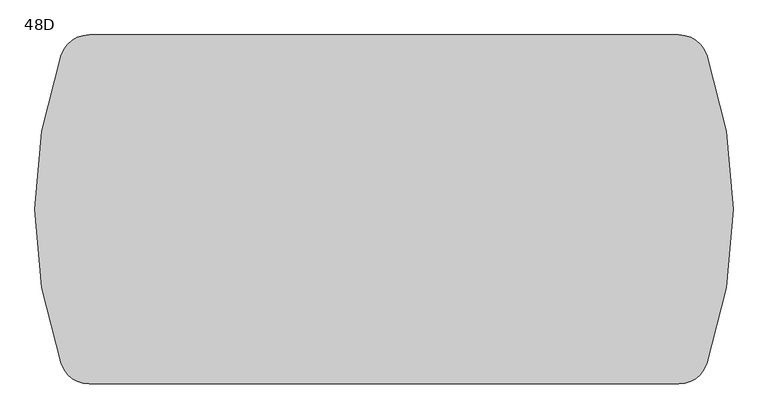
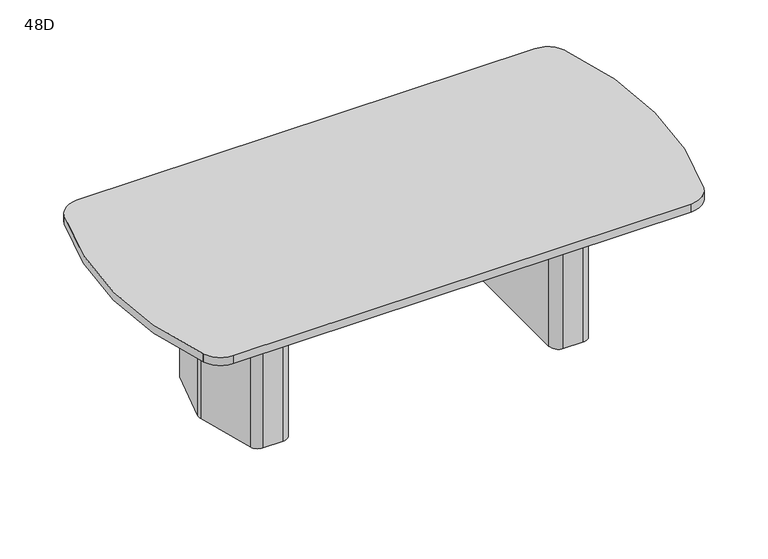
"""IFC4 building model written with IfcOpenShell, lengths in millimetres: furniture geometry, Coalesse_AM_Table_Conference_ETable2_SoftRadiused_96in_TwoBase : 48D."""

from ifc_helpers import new_model, si_unit, point, frame, frame_2d, origin, place, context, project, spatial, polyline, circle_curve, trimmed, segment, composite_curve, outline, extrude, source, transform, mapped, element, save
from ifc_brep_helpers import plane_surface, cylinder_surface, revolved_surface, advanced_brep


def furniture_48d_3bdc1eed(model_context):
    return source(origin(), model_context, "Body", "SolidModel", [
        advanced_brep(
        [(760.624548, 274.2093613, 698.5), (720.7579246, 304.8, 698.5), (631.825, 304.8, 698.5), (590.55, 263.525, 698.5), (590.55, -263.525, 698.5), (631.825, -304.8, 698.5), (720.7579246, -304.8, 698.5), (760.624548, -274.2093613, 698.5), (831.2503901, -10.6333708, 698.5), (831.2503901, 10.6333708, 698.5), (628.65, -206.375, 698.5), (628.65, 206.375, 698.5), (654.05, 231.775, 698.5), (713.0608422, 231.775, 698.5), (737.595338, 212.9490792, 698.5), (776.2875, 68.54974, 698.5), (776.2875, -68.54974, 698.5), (737.595338, -212.9490792, 698.5), (713.0608422, -231.775, 698.5), (654.05, -231.775, 698.5), (760.624548, 274.2093613, 3.175), (831.2503901, 10.6333708, 3.175), (831.2503901, -10.6333708, 3.175), (760.624548, -274.2093613, 3.175), (720.7579246, -304.8, 3.175), (631.825, -304.8, 3.175), (590.55, -263.525, 3.175), (590.55, 263.525, 3.175), (631.825, 304.8, 3.175), (720.7579246, 304.8, 3.175), (749.8625859, 216.2361187, 3.175), (713.0608422, 244.475, 3.175), (654.05, 244.475, 3.175), (615.95, 206.375, 3.175), (615.95, -206.375, 3.175), (654.05, -244.475, 3.175), (713.0608422, -244.475, 3.175), (749.8625859, -216.2361187, 3.175), (788.9875, -70.2217466, 3.175), (788.9875, 70.2217466, 3.175), (654.05, -231.775, 3.175), (628.65, -206.375, 3.175), (713.0608422, -231.775, 3.175), (737.595338, -212.9490792, 3.175), (776.2875, -68.54974, 3.175), (776.2875, 68.54974, 3.175), (737.595338, 212.9490792, 3.175), (713.0608422, 231.775, 3.175), (654.05, 231.775, 3.175), (628.65, 206.375, 3.175), (749.8625859, 216.2361187, 0.0), (788.9875, 70.2217466, 0.0), (788.9875, -70.2217466, 0.0), (749.8625859, -216.2361187, 0.0), (713.0608422, -244.475, 0.0), (654.05, -244.475, 0.0), (615.95, -206.375, 0.0), (615.95, 206.375, 0.0), (654.05, 244.475, 0.0), (713.0608422, 244.475, 0.0)],
        [
            (0, 1, circle_curve(frame((720.7579246, 263.5270004, 698.5), z_axis=(0.0, 0.0, 1.0), x_axis=(-1.0, 0.0, 0.0)), 41.2729996)),
            (1, 2),
            (2, 3, circle_curve(frame((631.825, 263.525, 698.5), z_axis=(0.0, 0.0, 1.0), x_axis=(-1.0, 0.0, 0.0)), 41.275)),
            (3, 4),
            (4, 5, circle_curve(frame((631.825, -263.525, 698.5), z_axis=(0.0, 0.0, 1.0), x_axis=(-1.0, 0.0, 0.0)), 41.275)),
            (5, 6),
            (6, 7, circle_curve(frame((720.7579246, -263.5270004, 698.5), z_axis=(0.0, 0.0, 1.0), x_axis=(-1.0, 0.0, 0.0)), 41.2729996)),
            (7, 8),
            (8, 9, circle_curve(frame((791.5665979, 0.0, 698.5), z_axis=(0.0, 0.0, 1.0), x_axis=(-1.0, 0.0, 0.0)), 41.0837187)),
            (9, 0),
            (10, 11),
            (11, 12, circle_curve(frame((654.05, 206.375, 698.5), z_axis=(0.0, 0.0, -1.0), x_axis=(-1.0, 0.0, 0.0)), 25.4)),
            (12, 13),
            (13, 14, circle_curve(frame((713.0608422, 206.375, 698.5), z_axis=(0.0, 0.0, -1.0), x_axis=(-1.0, 0.0, 0.0)), 25.4)),
            (14, 15),
            (15, 16),
            (16, 17),
            (17, 18, circle_curve(frame((713.0608422, -206.375, 698.5), z_axis=(0.0, 0.0, -1.0), x_axis=(-1.0, 0.0, 0.0)), 25.4)),
            (18, 19),
            (19, 10, circle_curve(frame((654.05, -206.375, 698.5), z_axis=(0.0, 0.0, -1.0), x_axis=(-1.0, 0.0, 0.0)), 25.4)),
            (20, 21),
            (21, 22, circle_curve(frame((791.5665979, 0.0, 3.175), z_axis=(0.0, 0.0, -1.0), x_axis=(-1.0, 0.0, 0.0)), 41.0837187)),
            (22, 23),
            (23, 24, circle_curve(frame((720.7579246, -263.5270004, 3.175), z_axis=(0.0, 0.0, -1.0), x_axis=(-1.0, 0.0, 0.0)), 41.2729996)),
            (24, 25),
            (25, 26, circle_curve(frame((631.825, -263.525, 3.175), z_axis=(0.0, 0.0, -1.0), x_axis=(-1.0, 0.0, 0.0)), 41.275)),
            (26, 27),
            (27, 28, circle_curve(frame((631.825, 263.525, 3.175), z_axis=(0.0, 0.0, -1.0), x_axis=(-1.0, 0.0, 0.0)), 41.275)),
            (28, 29),
            (29, 20, circle_curve(frame((720.7579246, 263.5270004, 3.175), z_axis=(0.0, 0.0, -1.0), x_axis=(-1.0, 0.0, 0.0)), 41.2729996)),
            (30, 31, circle_curve(frame((713.0608422, 206.375, 3.175), z_axis=(0.0, 0.0, 1.0), x_axis=(-1.0, 0.0, 0.0)), 38.1)),
            (31, 32),
            (32, 33, circle_curve(frame((654.05, 206.375, 3.175), z_axis=(0.0, 0.0, 1.0), x_axis=(-1.0, 0.0, 0.0)), 38.1)),
            (33, 34),
            (34, 35, circle_curve(frame((654.05, -206.375, 3.175), z_axis=(0.0, 0.0, 1.0), x_axis=(-1.0, 0.0, 0.0)), 38.1)),
            (35, 36),
            (36, 37, circle_curve(frame((713.0608422, -206.375, 3.175), z_axis=(0.0, 0.0, 1.0), x_axis=(-1.0, 0.0, 0.0)), 38.1)),
            (37, 38),
            (38, 39),
            (39, 30),
            (9, 21),
            (20, 0),
            (8, 22),
            (7, 23),
            (6, 24),
            (5, 25),
            (4, 26),
            (3, 27),
            (2, 28),
            (1, 29),
            (19, 40),
            (40, 41, circle_curve(frame((654.05, -206.375, 3.175), z_axis=(0.0, 0.0, -1.0), x_axis=(-1.0, 0.0, 0.0)), 25.4)),
            (41, 10),
            (18, 42),
            (42, 40),
            (17, 43),
            (43, 42, circle_curve(frame((713.0608422, -206.375, 3.175), z_axis=(0.0, 0.0, -1.0), x_axis=(-1.0, 0.0, 0.0)), 25.4)),
            (16, 44),
            (44, 43),
            (15, 45),
            (45, 44),
            (14, 46),
            (46, 45),
            (13, 47),
            (47, 46, circle_curve(frame((713.0608422, 206.375, 3.175), z_axis=(0.0, 0.0, -1.0), x_axis=(-1.0, 0.0, 0.0)), 25.4)),
            (12, 48),
            (48, 47),
            (11, 49),
            (49, 48, circle_curve(frame((654.05, 206.375, 3.175), z_axis=(0.0, 0.0, -1.0), x_axis=(-1.0, 0.0, 0.0)), 25.4)),
            (41, 49),
            (50, 51),
            (51, 52),
            (52, 53),
            (53, 54, circle_curve(frame((713.0608422, -206.375, 0.0), z_axis=(0.0, 0.0, -1.0), x_axis=(-1.0, 0.0, 0.0)), 38.1)),
            (54, 55),
            (55, 56, circle_curve(frame((654.05, -206.375, 0.0), z_axis=(0.0, 0.0, -1.0), x_axis=(-1.0, 0.0, 0.0)), 38.1)),
            (56, 57),
            (57, 58, circle_curve(frame((654.05, 206.375, 0.0), z_axis=(0.0, 0.0, -1.0), x_axis=(-1.0, 0.0, 0.0)), 38.1)),
            (58, 59),
            (59, 50, circle_curve(frame((713.0608422, 206.375, 0.0), z_axis=(0.0, 0.0, -1.0), x_axis=(-1.0, 0.0, 0.0)), 38.1)),
            (50, 30),
            (39, 51),
            (38, 52),
            (37, 53),
            (36, 54),
            (35, 55),
            (34, 56),
            (33, 57),
            (32, 58),
            (31, 59),
        ],
        [
            plane_surface(frame((831.2374275, 10.6817473, 698.5), z_axis=(0.0, 0.0, 1.0000000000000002), x_axis=(0.25882201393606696, -0.9659250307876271, 0.0))),
            plane_surface(frame((831.2374275, 10.6817473, 3.175), z_axis=(0.0, 0.0, -1.0000000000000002), x_axis=(-0.25882201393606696, 0.9659250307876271, 0.0))),
            plane_surface(frame((760.624548, 274.2093613, 698.5), z_axis=(0.9659250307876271, 0.25882201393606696, 0.0), x_axis=(0.0, 0.0, -1.0))),
            cylinder_surface(frame((791.5665979, 0.0, 3.175), z_axis=(0.0, 0.0, 1.0), x_axis=(-1.0, 0.0, 0.0)), 41.0837187),
            plane_surface(frame((831.2503901, -10.6333708, 698.5), z_axis=(0.9659250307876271, -0.2588220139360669, 0.0), x_axis=(0.0, 0.0, -1.0))),
            cylinder_surface(frame((720.7579246, -263.5270004, 3.175), z_axis=(0.0, 0.0, 1.0), x_axis=(-1.0, 0.0, 0.0)), 41.2729996),
            plane_surface(frame((720.7579246, -304.8, 698.5), z_axis=(0.0, -1.0, 0.0), x_axis=(0.0, 0.0, -1.0))),
            cylinder_surface(frame((631.825, -263.525, 3.175), z_axis=(0.0, 0.0, 1.0), x_axis=(-1.0, 0.0, 0.0)), 41.275),
            plane_surface(frame((590.55, -263.525, 698.5), z_axis=(-1.0, 0.0, 0.0), x_axis=(0.0, 0.0, -1.0))),
            cylinder_surface(frame((631.825, 263.525, 3.175), z_axis=(0.0, 0.0, 1.0), x_axis=(-1.0, 0.0, 0.0)), 41.275),
            plane_surface(frame((631.825, 304.8, 698.5), z_axis=(0.0, 1.0, 0.0), x_axis=(0.0, 0.0, -1.0))),
            cylinder_surface(frame((720.7579246, 263.5270004, 3.175), z_axis=(0.0, 0.0, 1.0), x_axis=(-1.0, 0.0, 0.0)), 41.2729996),
            revolved_surface(polyline([(628.65, -206.375, 3.175), (628.65, -206.375, 698.5)]), (654.05, -206.375, 0.0), (0.0, 0.0, -1.0)),
            plane_surface(frame((654.05, -231.775, 698.5), z_axis=(0.0, 1.0, 0.0), x_axis=(0.0, 0.0, -1.0))),
            revolved_surface(polyline([(687.6608422, -206.375, 3.175), (687.6608422, -206.375, 698.5)]), (713.0608422, -206.375, 0.0), (0.0, 0.0, -1.0)),
            plane_surface(frame((737.595338, -212.9490792, 698.5), z_axis=(-0.9659250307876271, 0.2588220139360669, 0.0), x_axis=(0.0, 0.0, -1.0))),
            plane_surface(frame((776.2875, -68.54974, 698.5), z_axis=(-1.0, 0.0, 0.0), x_axis=(0.0, 0.0, -1.0))),
            plane_surface(frame((776.2875, 68.54974, 698.5), z_axis=(-0.9659250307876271, -0.25882201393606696, 0.0), x_axis=(0.0, 0.0, -1.0))),
            revolved_surface(polyline([(687.6608422, 206.375, 3.175), (687.6608422, 206.375, 698.5)]), (713.0608422, 206.375, 0.0), (0.0, 0.0, -1.0)),
            plane_surface(frame((713.0608422, 231.775, 698.5), z_axis=(0.0, -1.0, 0.0), x_axis=(0.0, 0.0, -1.0))),
            revolved_surface(polyline([(628.65, 206.375, 3.175), (628.65, 206.375, 698.5)]), (654.05, 206.375, 0.0), (0.0, 0.0, -1.0)),
            plane_surface(frame((628.65, 206.375, 698.5), z_axis=(1.0, 0.0, 0.0), x_axis=(0.0, 0.0, -1.0))),
            plane_surface(frame((788.5547479, 71.8367796, 3.175), z_axis=(0.0, 0.0, 1.0), x_axis=(0.25882201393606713, -0.965925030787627, 0.0))),
            plane_surface(frame((788.5547479, 71.8367796, 0.0), z_axis=(0.0, 0.0, -1.0), x_axis=(-0.25882201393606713, 0.965925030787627, 0.0))),
            plane_surface(frame((749.8625859, 216.2361187, 3.175), z_axis=(0.965925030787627, 0.25882201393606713, 0.0), x_axis=(0.0, 0.0, -1.0))),
            plane_surface(frame((788.9875, 70.2217466, 3.175), z_axis=(1.0, 0.0, 0.0), x_axis=(0.0, 0.0, -1.0))),
            plane_surface(frame((788.9875, -70.2217466, 3.175), z_axis=(0.9659250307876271, -0.2588220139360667, 0.0), x_axis=(0.0, 0.0, -1.0))),
            cylinder_surface(frame((713.0608422, -206.375, 0.0), z_axis=(0.0, 0.0, 1.0), x_axis=(-1.0, 0.0, 0.0)), 38.1),
            plane_surface(frame((713.0608422, -244.475, 3.175), z_axis=(0.0, -1.0, 0.0), x_axis=(0.0, 0.0, -1.0))),
            cylinder_surface(frame((654.05, -206.375, 0.0), z_axis=(0.0, 0.0, 1.0), x_axis=(-1.0, 0.0, 0.0)), 38.1),
            plane_surface(frame((615.95, -206.375, 3.175), z_axis=(-1.0, 0.0, 0.0), x_axis=(0.0, 0.0, -1.0))),
            cylinder_surface(frame((654.05, 206.375, 0.0), z_axis=(0.0, 0.0, 1.0), x_axis=(-1.0, 0.0, 0.0)), 38.1),
            plane_surface(frame((654.05, 244.475, 3.175), z_axis=(0.0, 1.0, 0.0), x_axis=(0.0, 0.0, -1.0))),
            cylinder_surface(frame((713.0608422, 206.375, 0.0), z_axis=(0.0, 0.0, 1.0), x_axis=(-1.0, 0.0, 0.0)), 38.1),
        ],
        [
            (0, [[1, 2, 3, 4, 5, 6, 7, 8, 9, 10], [11, 12, 13, 14, 15, 16, 17, 18, 19, 20]]),
            (1, [[21, 22, 23, 24, 25, 26, 27, 28, 29, 30], [31, 32, 33, 34, 35, 36, 37, 38, 39, 40]]),
            (2, [[41, -21, 42, -10]]),
            (3, [[43, -22, -41, -9]]),
            (4, [[44, -23, -43, -8]]),
            (5, [[45, -24, -44, -7]]),
            (6, [[46, -25, -45, -6]]),
            (7, [[47, -26, -46, -5]]),
            (8, [[48, -27, -47, -4]]),
            (9, [[49, -28, -48, -3]]),
            (10, [[50, -29, -49, -2]]),
            (11, [[-42, -30, -50, -1]]),
            (12, [[51, 52, 53, -20]]),
            (13, [[54, 55, -51, -19]]),
            (14, [[56, 57, -54, -18]]),
            (15, [[58, 59, -56, -17]]),
            (16, [[60, 61, -58, -16]]),
            (17, [[62, 63, -60, -15]]),
            (18, [[64, 65, -62, -14]]),
            (19, [[66, 67, -64, -13]]),
            (20, [[68, 69, -66, -12]]),
            (21, [[-53, 70, -68, -11]]),
            (22, [[-55, -57, -59, -61, -63, -65, -67, -69, -70, -52]]),
            (23, [[71, 72, 73, 74, 75, 76, 77, 78, 79, 80]]),
            (24, [[81, -40, 82, -71]]),
            (25, [[-82, -39, 83, -72]]),
            (26, [[-83, -38, 84, -73]]),
            (27, [[-84, -37, 85, -74]]),
            (28, [[-85, -36, 86, -75]]),
            (29, [[-86, -35, 87, -76]]),
            (30, [[-87, -34, 88, -77]]),
            (31, [[-88, -33, 89, -78]]),
            (32, [[-89, -32, 90, -79]]),
            (33, [[-90, -31, -81, -80]]),
        ],
    ),
        advanced_brep(
        [(-760.624548, 274.2093613, 698.5), (-831.2503901, 10.6333708, 698.5), (-831.2503901, -10.6333708, 698.5), (-760.624548, -274.2093613, 698.5), (-720.7579246, -304.8, 698.5), (-631.825, -304.8, 698.5), (-590.55, -263.525, 698.5), (-590.55, 263.525, 698.5), (-631.825, 304.8, 698.5), (-720.7579246, 304.8, 698.5), (-628.65, -206.375, 698.5), (-654.05, -231.775, 698.5), (-713.0608422, -231.775, 698.5), (-737.595338, -212.9490792, 698.5), (-776.2875, -68.54974, 698.5), (-776.2875, 68.54974, 698.5), (-737.595338, 212.9490792, 698.5), (-713.0608422, 231.775, 698.5), (-654.05, 231.775, 698.5), (-628.65, 206.375, 698.5), (-760.624548, 274.2093613, 3.175), (-720.7579246, 304.8, 3.175), (-631.825, 304.8, 3.175), (-590.55, 263.525, 3.175), (-590.55, -263.525, 3.175), (-631.825, -304.8, 3.175), (-720.7579246, -304.8, 3.175), (-760.624548, -274.2093613, 3.175), (-831.2503901, -10.6333708, 3.175), (-831.2503901, 10.6333708, 3.175), (-749.8625859, 216.2361187, 3.175), (-788.9875, 70.2217466, 3.175), (-788.9875, -70.2217466, 3.175), (-749.8625859, -216.2361187, 3.175), (-713.0608422, -244.475, 3.175), (-654.05, -244.475, 3.175), (-615.95, -206.375, 3.175), (-615.95, 206.375, 3.175), (-654.05, 244.475, 3.175), (-713.0608422, 244.475, 3.175), (-628.65, -206.375, 3.175), (-654.05, -231.775, 3.175), (-713.0608422, -231.775, 3.175), (-737.595338, -212.9490792, 3.175), (-776.2875, -68.54974, 3.175), (-776.2875, 68.54974, 3.175), (-737.595338, 212.9490792, 3.175), (-713.0608422, 231.775, 3.175), (-654.05, 231.775, 3.175), (-628.65, 206.375, 3.175), (-749.8625859, 216.2361187, 0.0), (-713.0608422, 244.475, 0.0), (-654.05, 244.475, 0.0), (-615.95, 206.375, 0.0), (-615.95, -206.375, 0.0), (-654.05, -244.475, 0.0), (-713.0608422, -244.475, 0.0), (-749.8625859, -216.2361187, 0.0), (-788.9875, -70.2217466, 0.0), (-788.9875, 70.2217466, 0.0)],
        [
            (0, 1),
            (1, 2, circle_curve(frame((-791.5665979, 0.0, 698.5), z_axis=(0.0, 0.0, 1.0), x_axis=(1.0, 0.0, 0.0)), 41.0837187)),
            (2, 3),
            (3, 4, circle_curve(frame((-720.7579246, -263.5270004, 698.5), z_axis=(0.0, 0.0, 1.0), x_axis=(1.0, 0.0, 0.0)), 41.2729996)),
            (4, 5),
            (5, 6, circle_curve(frame((-631.825, -263.525, 698.5), z_axis=(0.0, 0.0, 1.0), x_axis=(1.0, 0.0, 0.0)), 41.275)),
            (6, 7),
            (7, 8, circle_curve(frame((-631.825, 263.525, 698.5), z_axis=(0.0, 0.0, 1.0), x_axis=(1.0, 0.0, 0.0)), 41.275)),
            (8, 9),
            (9, 0, circle_curve(frame((-720.7579246, 263.5270004, 698.5), z_axis=(0.0, 0.0, 1.0), x_axis=(1.0, 0.0, 0.0)), 41.2729996)),
            (10, 11, circle_curve(frame((-654.05, -206.375, 698.5), z_axis=(0.0, 0.0, -1.0), x_axis=(1.0, 0.0, 0.0)), 25.4)),
            (11, 12),
            (12, 13, circle_curve(frame((-713.0608422, -206.375, 698.5), z_axis=(0.0, 0.0, -1.0), x_axis=(1.0, 0.0, 0.0)), 25.4)),
            (13, 14),
            (14, 15),
            (15, 16),
            (16, 17, circle_curve(frame((-713.0608422, 206.375, 698.5), z_axis=(0.0, 0.0, -1.0), x_axis=(1.0, 0.0, 0.0)), 25.4)),
            (17, 18),
            (18, 19, circle_curve(frame((-654.05, 206.375, 698.5), z_axis=(0.0, 0.0, -1.0), x_axis=(1.0, 0.0, 0.0)), 25.4)),
            (19, 10),
            (20, 21, circle_curve(frame((-720.7579246, 263.5270004, 3.175), z_axis=(0.0, 0.0, -1.0), x_axis=(1.0, 0.0, 0.0)), 41.2729996)),
            (21, 22),
            (22, 23, circle_curve(frame((-631.825, 263.525, 3.175), z_axis=(0.0, 0.0, -1.0), x_axis=(1.0, 0.0, 0.0)), 41.275)),
            (23, 24),
            (24, 25, circle_curve(frame((-631.825, -263.525, 3.175), z_axis=(0.0, 0.0, -1.0), x_axis=(1.0, 0.0, 0.0)), 41.275)),
            (25, 26),
            (26, 27, circle_curve(frame((-720.7579246, -263.5270004, 3.175), z_axis=(0.0, 0.0, -1.0), x_axis=(1.0, 0.0, 0.0)), 41.2729996)),
            (27, 28),
            (28, 29, circle_curve(frame((-791.5665979, 0.0, 3.175), z_axis=(0.0, 0.0, -1.0), x_axis=(1.0, 0.0, 0.0)), 41.0837187)),
            (29, 20),
            (30, 31),
            (31, 32),
            (32, 33),
            (33, 34, circle_curve(frame((-713.0608422, -206.375, 3.175), z_axis=(0.0, 0.0, 1.0), x_axis=(1.0, 0.0, 0.0)), 38.1)),
            (34, 35),
            (35, 36, circle_curve(frame((-654.05, -206.375, 3.175), z_axis=(0.0, 0.0, 1.0), x_axis=(1.0, 0.0, 0.0)), 38.1)),
            (36, 37),
            (37, 38, circle_curve(frame((-654.05, 206.375, 3.175), z_axis=(0.0, 0.0, 1.0), x_axis=(1.0, 0.0, 0.0)), 38.1)),
            (38, 39),
            (39, 30, circle_curve(frame((-713.0608422, 206.375, 3.175), z_axis=(0.0, 0.0, 1.0), x_axis=(1.0, 0.0, 0.0)), 38.1)),
            (0, 20),
            (29, 1),
            (28, 2),
            (27, 3),
            (26, 4),
            (25, 5),
            (24, 6),
            (23, 7),
            (22, 8),
            (21, 9),
            (10, 40),
            (40, 41, circle_curve(frame((-654.05, -206.375, 3.175), z_axis=(0.0, 0.0, -1.0), x_axis=(1.0, 0.0, 0.0)), 25.4)),
            (41, 11),
            (41, 42),
            (42, 12),
            (42, 43, circle_curve(frame((-713.0608422, -206.375, 3.175), z_axis=(0.0, 0.0, -1.0), x_axis=(1.0, 0.0, 0.0)), 25.4)),
            (43, 13),
            (43, 44),
            (44, 14),
            (44, 45),
            (45, 15),
            (45, 46),
            (46, 16),
            (46, 47, circle_curve(frame((-713.0608422, 206.375, 3.175), z_axis=(0.0, 0.0, -1.0), x_axis=(1.0, 0.0, 0.0)), 25.4)),
            (47, 17),
            (47, 48),
            (48, 18),
            (48, 49, circle_curve(frame((-654.05, 206.375, 3.175), z_axis=(0.0, 0.0, -1.0), x_axis=(1.0, 0.0, 0.0)), 25.4)),
            (49, 19),
            (49, 40),
            (50, 51, circle_curve(frame((-713.0608422, 206.375, 0.0), z_axis=(0.0, 0.0, -1.0), x_axis=(1.0, 0.0, 0.0)), 38.1)),
            (51, 52),
            (52, 53, circle_curve(frame((-654.05, 206.375, 0.0), z_axis=(0.0, 0.0, -1.0), x_axis=(1.0, 0.0, 0.0)), 38.1)),
            (53, 54),
            (54, 55, circle_curve(frame((-654.05, -206.375, 0.0), z_axis=(0.0, 0.0, -1.0), x_axis=(1.0, 0.0, 0.0)), 38.1)),
            (55, 56),
            (56, 57, circle_curve(frame((-713.0608422, -206.375, 0.0), z_axis=(0.0, 0.0, -1.0), x_axis=(1.0, 0.0, 0.0)), 38.1)),
            (57, 58),
            (58, 59),
            (59, 50),
            (59, 31),
            (30, 50),
            (58, 32),
            (57, 33),
            (56, 34),
            (55, 35),
            (54, 36),
            (53, 37),
            (52, 38),
            (51, 39),
        ],
        [
            plane_surface(frame((-831.2374275, 10.6817473, 698.5), z_axis=(0.0, 0.0, 1.0000000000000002), x_axis=(-0.25882201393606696, -0.9659250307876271, 0.0))),
            plane_surface(frame((-831.2374275, 10.6817473, 3.175), z_axis=(0.0, 0.0, -1.0000000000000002), x_axis=(0.25882201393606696, 0.9659250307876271, 0.0))),
            plane_surface(frame((-760.624548, 274.2093613, 698.5), z_axis=(-0.9659250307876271, 0.25882201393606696, 0.0), x_axis=(0.0, 0.0, -1.0))),
            cylinder_surface(frame((-791.5665979, 0.0, 3.175), z_axis=(0.0, 0.0, 1.0), x_axis=(1.0, 0.0, 0.0)), 41.0837187),
            plane_surface(frame((-831.2503901, -10.6333708, 698.5), z_axis=(-0.9659250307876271, -0.2588220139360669, 0.0), x_axis=(0.0, 0.0, -1.0))),
            cylinder_surface(frame((-720.7579246, -263.5270004, 3.175), z_axis=(0.0, 0.0, 1.0), x_axis=(1.0, 0.0, 0.0)), 41.2729996),
            plane_surface(frame((-720.7579246, -304.8, 698.5), z_axis=(0.0, -1.0, 0.0), x_axis=(0.0, 0.0, -1.0))),
            cylinder_surface(frame((-631.825, -263.525, 3.175), z_axis=(0.0, 0.0, 1.0), x_axis=(1.0, 0.0, 0.0)), 41.275),
            plane_surface(frame((-590.55, -263.525, 698.5), z_axis=(1.0, 0.0, 0.0), x_axis=(0.0, 0.0, -1.0))),
            cylinder_surface(frame((-631.825, 263.525, 3.175), z_axis=(0.0, 0.0, 1.0), x_axis=(1.0, 0.0, 0.0)), 41.275),
            plane_surface(frame((-631.825, 304.8, 698.5), z_axis=(0.0, 1.0, 0.0), x_axis=(0.0, 0.0, -1.0))),
            cylinder_surface(frame((-720.7579246, 263.5270004, 3.175), z_axis=(0.0, 0.0, 1.0), x_axis=(1.0, 0.0, 0.0)), 41.2729996),
            revolved_surface(polyline([(-628.65, -206.375, 3.175), (-628.65, -206.375, 698.5)]), (-654.05, -206.375, 0.0), (0.0, 0.0, -1.0)),
            plane_surface(frame((-654.05, -231.775, 698.5), z_axis=(0.0, 1.0, 0.0), x_axis=(0.0, 0.0, -1.0))),
            revolved_surface(polyline([(-687.6608422, -206.375, 3.175), (-687.6608422, -206.375, 698.5)]), (-713.0608422, -206.375, 0.0), (0.0, 0.0, -1.0)),
            plane_surface(frame((-737.595338, -212.9490792, 698.5), z_axis=(0.9659250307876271, 0.2588220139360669, 0.0), x_axis=(0.0, 0.0, -1.0))),
            plane_surface(frame((-776.2875, -68.54974, 698.5), z_axis=(1.0, 0.0, 0.0), x_axis=(0.0, 0.0, -1.0))),
            plane_surface(frame((-776.2875, 68.54974, 698.5), z_axis=(0.9659250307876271, -0.25882201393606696, 0.0), x_axis=(0.0, 0.0, -1.0))),
            revolved_surface(polyline([(-687.6608422, 206.375, 3.175), (-687.6608422, 206.375, 698.5)]), (-713.0608422, 206.375, 0.0), (0.0, 0.0, -1.0)),
            plane_surface(frame((-713.0608422, 231.775, 698.5), z_axis=(0.0, -1.0, 0.0), x_axis=(0.0, 0.0, -1.0))),
            revolved_surface(polyline([(-628.65, 206.375, 3.175), (-628.65, 206.375, 698.5)]), (-654.05, 206.375, 0.0), (0.0, 0.0, -1.0)),
            plane_surface(frame((-628.65, 206.375, 698.5), z_axis=(-1.0, 0.0, 0.0), x_axis=(0.0, 0.0, -1.0))),
            plane_surface(frame((-788.5547479, 71.8367796, 3.175), z_axis=(0.0, 0.0, 1.0), x_axis=(-0.25882201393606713, -0.965925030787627, 0.0))),
            plane_surface(frame((-788.5547479, 71.8367796, 0.0), z_axis=(0.0, 0.0, -1.0), x_axis=(0.25882201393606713, 0.965925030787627, 0.0))),
            plane_surface(frame((-749.8625859, 216.2361187, 3.175), z_axis=(-0.965925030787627, 0.25882201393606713, 0.0), x_axis=(0.0, 0.0, -1.0))),
            plane_surface(frame((-788.9875, 70.2217466, 3.175), z_axis=(-1.0, 0.0, 0.0), x_axis=(0.0, 0.0, -1.0))),
            plane_surface(frame((-788.9875, -70.2217466, 3.175), z_axis=(-0.9659250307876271, -0.2588220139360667, 0.0), x_axis=(0.0, 0.0, -1.0))),
            cylinder_surface(frame((-713.0608422, -206.375, 0.0), z_axis=(0.0, 0.0, 1.0), x_axis=(1.0, 0.0, 0.0)), 38.1),
            plane_surface(frame((-713.0608422, -244.475, 3.175), z_axis=(0.0, -1.0, 0.0), x_axis=(0.0, 0.0, -1.0))),
            cylinder_surface(frame((-654.05, -206.375, 0.0), z_axis=(0.0, 0.0, 1.0), x_axis=(1.0, 0.0, 0.0)), 38.1),
            plane_surface(frame((-615.95, -206.375, 3.175), z_axis=(1.0, 0.0, 0.0), x_axis=(0.0, 0.0, -1.0))),
            cylinder_surface(frame((-654.05, 206.375, 0.0), z_axis=(0.0, 0.0, 1.0), x_axis=(1.0, 0.0, 0.0)), 38.1),
            plane_surface(frame((-654.05, 244.475, 3.175), z_axis=(0.0, 1.0, 0.0), x_axis=(0.0, 0.0, -1.0))),
            cylinder_surface(frame((-713.0608422, 206.375, 0.0), z_axis=(0.0, 0.0, 1.0), x_axis=(1.0, 0.0, 0.0)), 38.1),
        ],
        [
            (0, [[1, 2, 3, 4, 5, 6, 7, 8, 9, 10], [11, 12, 13, 14, 15, 16, 17, 18, 19, 20]]),
            (1, [[21, 22, 23, 24, 25, 26, 27, 28, 29, 30], [31, 32, 33, 34, 35, 36, 37, 38, 39, 40]]),
            (2, [[-1, 41, -30, 42]]),
            (3, [[-2, -42, -29, 43]]),
            (4, [[-3, -43, -28, 44]]),
            (5, [[-4, -44, -27, 45]]),
            (6, [[-5, -45, -26, 46]]),
            (7, [[-6, -46, -25, 47]]),
            (8, [[-7, -47, -24, 48]]),
            (9, [[-8, -48, -23, 49]]),
            (10, [[-9, -49, -22, 50]]),
            (11, [[-10, -50, -21, -41]]),
            (12, [[-11, 51, 52, 53]]),
            (13, [[-12, -53, 54, 55]]),
            (14, [[-13, -55, 56, 57]]),
            (15, [[-14, -57, 58, 59]]),
            (16, [[-15, -59, 60, 61]]),
            (17, [[-16, -61, 62, 63]]),
            (18, [[-17, -63, 64, 65]]),
            (19, [[-18, -65, 66, 67]]),
            (20, [[-19, -67, 68, 69]]),
            (21, [[-20, -69, 70, -51]]),
            (22, [[-52, -70, -68, -66, -64, -62, -60, -58, -56, -54]]),
            (23, [[71, 72, 73, 74, 75, 76, 77, 78, 79, 80]]),
            (24, [[-80, 81, -31, 82]]),
            (25, [[-79, 83, -32, -81]]),
            (26, [[-78, 84, -33, -83]]),
            (27, [[-77, 85, -34, -84]]),
            (28, [[-76, 86, -35, -85]]),
            (29, [[-75, 87, -36, -86]]),
            (30, [[-74, 88, -37, -87]]),
            (31, [[-73, 89, -38, -88]]),
            (32, [[-72, 90, -39, -89]]),
            (33, [[-71, -82, -40, -90]]),
        ],
    ),
        extrude(outline(polyline([(96.8375, 698.5), (103.1875, 698.5), (103.1875, 476.25), (-103.1875, 476.25), (-103.1875, 698.5), (-96.8375, 698.5), (-96.8375, 482.6), (96.8375, 482.6), (96.8375, 698.5)])), frame((-590.55, 0.0, 0.0), z_axis=(1.0, 0.0, 0.0), x_axis=(0.0, 1.0, 0.0)), (0.0, 0.0, 1.0), 1181.1),
        extrude(outline(composite_curve([segment(polyline([(1030.442116, -609.6), (-1030.4420609, -609.6)]), True, "CONTINUOUS"), segment(trimmed(circle_curve(frame_2d((-1030.4420609, -507.9999756)), 101.6000244), [point((-1030.4420609, -609.6))], [point((-1126.2319848, -541.8652296))], False, "CARTESIAN"), True, "CONTINUOUS"), segment(polyline([(-1126.2319848, -541.8652296), (-1126.9878201, -539.7273037)]), True, "CONTINUOUS"), segment(trimmed(circle_curve(frame_2d((399.6637263, 5.18e-05)), 1619.25), [point((-1126.9878201, -539.7273037))], [point((-1126.9818993, 539.7441544))], False, "CARTESIAN"), True, "CONTINUOUS"), segment(polyline([(-1126.9818993, 539.7441544), (-1126.2316179, 541.8662966)]), True, "CONTINUOUS"), segment(trimmed(circle_curve(frame_2d((-1030.4420884, 508.0)), 101.6), [point((-1126.2316179, 541.8662966))], [point((-1030.4420884, 609.6))], False, "CARTESIAN"), True, "CONTINUOUS"), segment(polyline([(-1030.4420884, 609.6), (1030.4420884, 609.6)]), True, "CONTINUOUS"), segment(trimmed(circle_curve(frame_2d((1030.4420884, 507.9999756)), 101.6000244), [point((1030.4420884, 609.6))], [point((1126.2320124, 541.8652296))], False, "CARTESIAN"), True, "CONTINUOUS"), segment(polyline([(1126.2320124, 541.8652296), (1126.9878477, 539.7273037)]), True, "CONTINUOUS"), segment(trimmed(circle_curve(frame_2d((-399.6636988, -5.18e-05)), 1619.25), [point((1126.9878477, 539.7273037))], [point((1126.9819268, -539.7441544))], False, "CARTESIAN"), True, "CONTINUOUS"), segment(polyline([(1126.9819268, -539.7441544), (1126.2316455, -541.8662966)]), True, "CONTINUOUS"), segment(trimmed(circle_curve(frame_2d((1030.442116, -508.0)), 101.6), [point((1126.2316455, -541.8662966))], [point((1030.442116, -609.6))], False, "CARTESIAN"), True, "CONTINUOUS")], self_intersect=False)), frame((0.0, 0.0, 698.5), z_axis=(0.0, 0.0, 1.0), x_axis=(1.0, 0.0, 0.0)), (0.0, 0.0, 1.0), 38.1),
    ])


if __name__ == "__main__":
    model = new_model("IFC4")
    model_context = context("Model", 3, world=origin())
    ifc_project = project(units=[si_unit("LENGTHUNIT", "METRE", prefix="MILLI")], contexts=[model_context])
    site = spatial("IfcSite", under=ifc_project)
    building = spatial("IfcBuilding", under=site)
    placement = place(None, origin())
    furniture_48d_shape = furniture_48d_3bdc1eed(model_context)
    element("IfcFurniture", 1, ObjectType="Coalesse_AM_Table_Conference_ETable2_SoftRadiused_96in_TwoBase : 48D", at=placement, inside=building, context=model_context, shape_type="MappedRepresentation", body=[
        mapped(furniture_48d_shape, transform((0.0, 0.0, 0.0), x_axis=(1.0, 0.0, 0.0), y_axis=(0.0, 1.0, 0.0), z_axis=(0.0, 0.0, 1.0))),
    ])
    save(model, "model.ifc")
